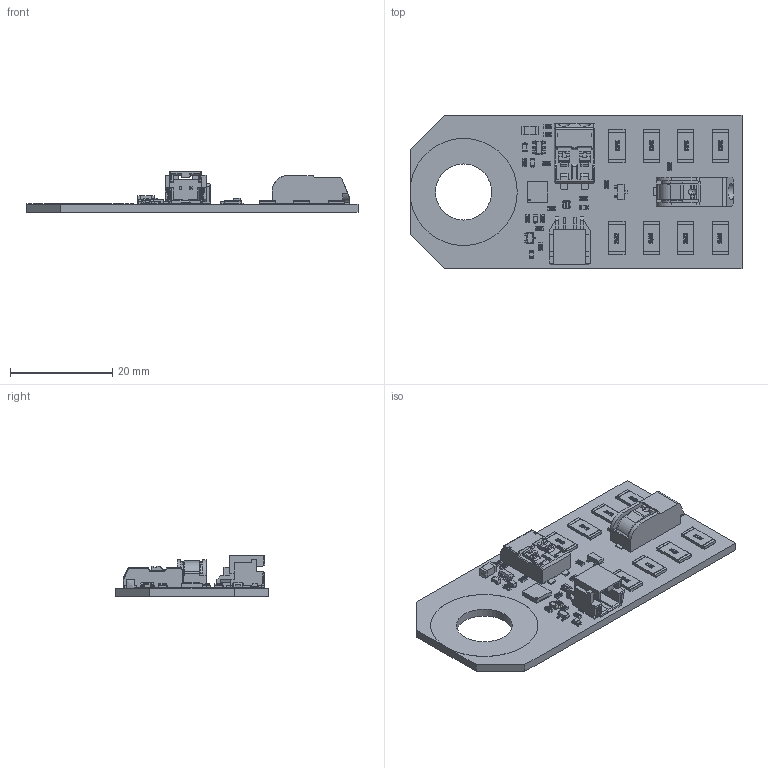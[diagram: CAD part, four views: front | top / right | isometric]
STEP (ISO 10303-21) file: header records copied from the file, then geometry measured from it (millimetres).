
FILE_DESCRIPTION(/* description */ (''),/* implementation_level */ '2;1');
FILE_NAME(/* name */ 'C:/Users/Justinas/Desktop/CM011B.step',/* time_stamp */ '2021-08-03T13:23:42+03:00',/* author */ (''),/* organization */ (''),/* preprocessor_version */ 'ST-DEVELOPER v18.1',/* originating_system */ 'Autodesk Translation Framework v10.9.0.1377',/* authorisation */ '');
FILE_SCHEMA (('AUTOMOTIVE_DESIGN { 1 0 10303 214 3 1 1 }'));
Products named in the file (66): CM011B; Board; Q2; SOT23; R6; U2; SOT23-6; U1; QFN20-4x4; R20; R19; R18; R17; R16; R15; R14; R13; RES2512; R12; R11; R10; R9; R8; R7; R5; R4; R3; R2; R1; RES0603; Q1; SOT323_(sc70); J3; 5023520200; Open CASCADE STEP translator 6.8 1.26.1.1; Open CASCADE STEP translator 6.8 1.26.1.2; J1; 2061-601_998-404_3df; D5; LED_Red_0603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
Assembly tree (85 placements, depth 4):
  CM011B
    Board
    Q2
      SOT23
    R6
      RES0603
    U2
      SOT23-6
    U1
      QFN20-4x4
    R20
      RES2512
    R19
      RES2512
    R18
      RES2512
    R17
      RES2512
    R16
      RES2512
    R15
      RES2512
    R14
      RES2512
    R13
      RES2512
    R12
      RES0603
    R11
      RES0603
    R10
      RES0603
    R9
      RES0603
    R8
      RES0603
    R7
      RES0603
    R5
      RES0603
    R4
      RES0603
    R3
      RES0603
    R2
      RES0603
    R1
      RES0603
    Q1
      SOT323_(sc70)
    J3
      5023520200
        Open CASCADE STEP translator 6.8 1.26.1.1
        Open CASCADE STEP translator 6.8 1.26.1.2
    J1
      2061-601_998-404_3df
    D5
      LED_Red_0603
        User_Library-LTST-C190EKT_Pad
        User_Library-LTST-C190EKT_Pad005
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Bounding box: 65 x 30 x 8.01 mm (x, y, z)
Volume: 3946.3 mm3; surface area: 6616.7 mm2
Topology: 117 solids, 117 shells, 4347 faces, 10905 edges, 6760 vertices
Faces by surface type: plane 2461, cylinder 934, bspline 640, sphere 285, torus 20, cone 7
Full cylindrical faces by diameter (mm): 3.2 x1, 11 x1, 21 x1
Entity records: 58382 total; most frequent: CARTESIAN_POINT 16609, ORIENTED_EDGE 8478, DIRECTION 7972, EDGE_CURVE 4239, LINE 3142, VECTOR 3142, VERTEX_POINT 2738, AXIS2_PLACEMENT_3D 2415
